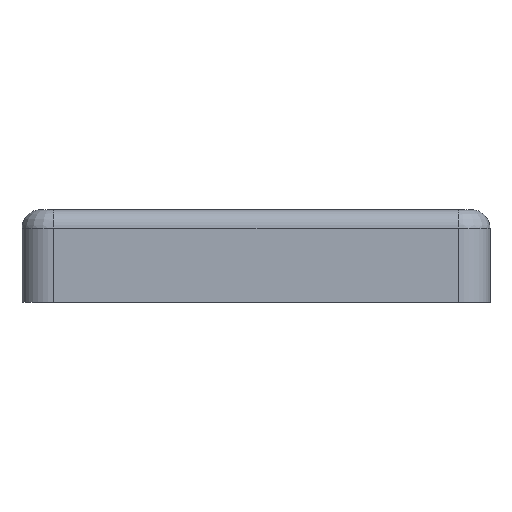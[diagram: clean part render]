
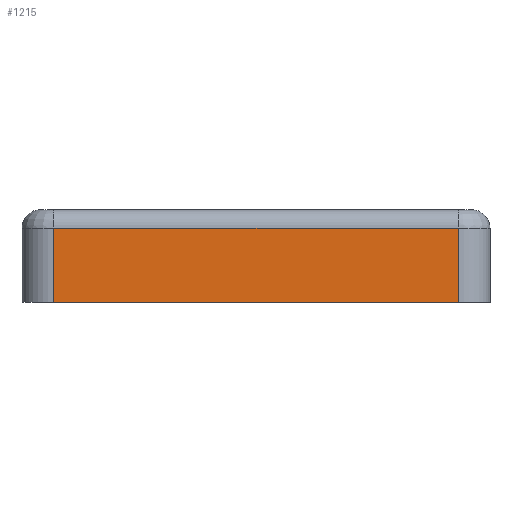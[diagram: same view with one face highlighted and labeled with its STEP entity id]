
A CAD part, left-side view. The second image highlights one B-rep face of the part: STEP entity #1215.
In plain terms, the highlighted planar face has unit normal (-1, 0, 0).
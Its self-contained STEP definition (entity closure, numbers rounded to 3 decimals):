
#43 = PLANE('',#44);
#44 = AXIS2_PLACEMENT_3D('',#45,#46,#47);
#45 = CARTESIAN_POINT('',(-6.25,-33.35,0.1));
#46 = DIRECTION('',(0.,0.,1.));
#47 = DIRECTION('',(1.,0.,0.));
#70 = CYLINDRICAL_SURFACE('',#71,2.1);
#71 = AXIS2_PLACEMENT_3D('',#72,#73,#74);
#72 = CARTESIAN_POINT('',(0.45,-26.65,-8.02));
#73 = DIRECTION('',(0.,0.,1.));
#74 = DIRECTION('',(0.,-1.,0.));
#166 = EDGE_CURVE('',#167,#169,#171,.T.);
#167 = VERTEX_POINT('',#168);
#168 = CARTESIAN_POINT('',(-1.65,-0.05,0.1));
#169 = VERTEX_POINT('',#170);
#170 = CARTESIAN_POINT('',(-1.65,-26.65,0.1));
#171 = SURFACE_CURVE('',#172,(#176,#182),.PCURVE_S1.);
#172 = LINE('',#173,#174);
#173 = CARTESIAN_POINT('',(-1.65,-15.65,0.1));
#174 = VECTOR('',#175,1.);
#175 = DIRECTION('',(0.,-1.,0.));
#176 = PCURVE('',#43,#177);
#177 = DEFINITIONAL_REPRESENTATION('',(#178),#181);
#178 = B_SPLINE_CURVE_WITH_KNOTS('',1,(#179,#180),.UNSPECIFIED.,.F.,.F.,
  (2,2),(-15.6,11.),.PIECEWISE_BEZIER_KNOTS.);
#179 = CARTESIAN_POINT('',(4.6,33.3));
#180 = CARTESIAN_POINT('',(4.6,6.7));
#181 = ( GEOMETRIC_REPRESENTATION_CONTEXT(2) 
PARAMETRIC_REPRESENTATION_CONTEXT() REPRESENTATION_CONTEXT('2D SPACE',''
  ) );
#182 = PCURVE('',#183,#188);
#183 = PLANE('',#184);
#184 = AXIS2_PLACEMENT_3D('',#185,#186,#187);
#185 = CARTESIAN_POINT('',(-1.65,2.05,-8.02));
#186 = DIRECTION('',(1.,0.,-0.));
#187 = DIRECTION('',(0.,-1.,0.));
#188 = DEFINITIONAL_REPRESENTATION('',(#189),#192);
#189 = B_SPLINE_CURVE_WITH_KNOTS('',1,(#190,#191),.UNSPECIFIED.,.F.,.F.,
  (2,2),(-15.6,11.),.PIECEWISE_BEZIER_KNOTS.);
#190 = CARTESIAN_POINT('',(2.1,-8.12));
#191 = CARTESIAN_POINT('',(28.7,-8.12));
#192 = ( GEOMETRIC_REPRESENTATION_CONTEXT(2) 
PARAMETRIC_REPRESENTATION_CONTEXT() REPRESENTATION_CONTEXT('2D SPACE',''
  ) );
#661 = CYLINDRICAL_SURFACE('',#662,2.1);
#662 = AXIS2_PLACEMENT_3D('',#663,#664,#665);
#663 = CARTESIAN_POINT('',(0.45,-0.05,-8.02));
#664 = DIRECTION('',(0.,0.,1.));
#665 = DIRECTION('',(-0.,1.,0.));
#1171 = EDGE_CURVE('',#169,#1172,#1174,.T.);
#1172 = VERTEX_POINT('',#1173);
#1173 = CARTESIAN_POINT('',(-1.65,-26.65,4.98));
#1174 = SURFACE_CURVE('',#1175,(#1179,#1186),.PCURVE_S1.);
#1175 = LINE('',#1176,#1177);
#1176 = CARTESIAN_POINT('',(-1.65,-26.65,-8.02));
#1177 = VECTOR('',#1178,1.);
#1178 = DIRECTION('',(0.,0.,1.));
#1179 = PCURVE('',#70,#1180);
#1180 = DEFINITIONAL_REPRESENTATION('',(#1181),#1185);
#1181 = LINE('',#1182,#1183);
#1182 = CARTESIAN_POINT('',(-1.571,0.));
#1183 = VECTOR('',#1184,1.);
#1184 = DIRECTION('',(-0.,1.));
#1185 = ( GEOMETRIC_REPRESENTATION_CONTEXT(2) 
PARAMETRIC_REPRESENTATION_CONTEXT() REPRESENTATION_CONTEXT('2D SPACE',''
  ) );
#1186 = PCURVE('',#183,#1187);
#1187 = DEFINITIONAL_REPRESENTATION('',(#1188),#1192);
#1188 = LINE('',#1189,#1190);
#1189 = CARTESIAN_POINT('',(28.7,0.));
#1190 = VECTOR('',#1191,1.);
#1191 = DIRECTION('',(0.,-1.));
#1192 = ( GEOMETRIC_REPRESENTATION_CONTEXT(2) 
PARAMETRIC_REPRESENTATION_CONTEXT() REPRESENTATION_CONTEXT('2D SPACE',''
  ) );
#1215 = ADVANCED_FACE('',(#1216),#183,.F.);
#1216 = FACE_BOUND('',#1217,.F.);
#1217 = EDGE_LOOP('',(#1218,#1219,#1242,#1268));
#1218 = ORIENTED_EDGE('',*,*,#166,.F.);
#1219 = ORIENTED_EDGE('',*,*,#1220,.T.);
#1220 = EDGE_CURVE('',#167,#1221,#1223,.T.);
#1221 = VERTEX_POINT('',#1222);
#1222 = CARTESIAN_POINT('',(-1.65,-0.05,4.98));
#1223 = SURFACE_CURVE('',#1224,(#1228,#1235),.PCURVE_S1.);
#1224 = LINE('',#1225,#1226);
#1225 = CARTESIAN_POINT('',(-1.65,-0.05,-8.02));
#1226 = VECTOR('',#1227,1.);
#1227 = DIRECTION('',(0.,0.,1.));
#1228 = PCURVE('',#183,#1229);
#1229 = DEFINITIONAL_REPRESENTATION('',(#1230),#1234);
#1230 = LINE('',#1231,#1232);
#1231 = CARTESIAN_POINT('',(2.1,0.));
#1232 = VECTOR('',#1233,1.);
#1233 = DIRECTION('',(0.,-1.));
#1234 = ( GEOMETRIC_REPRESENTATION_CONTEXT(2) 
PARAMETRIC_REPRESENTATION_CONTEXT() REPRESENTATION_CONTEXT('2D SPACE',''
  ) );
#1235 = PCURVE('',#661,#1236);
#1236 = DEFINITIONAL_REPRESENTATION('',(#1237),#1241);
#1237 = LINE('',#1238,#1239);
#1238 = CARTESIAN_POINT('',(1.571,0.));
#1239 = VECTOR('',#1240,1.);
#1240 = DIRECTION('',(0.,1.));
#1241 = ( GEOMETRIC_REPRESENTATION_CONTEXT(2) 
PARAMETRIC_REPRESENTATION_CONTEXT() REPRESENTATION_CONTEXT('2D SPACE',''
  ) );
#1242 = ORIENTED_EDGE('',*,*,#1243,.T.);
#1243 = EDGE_CURVE('',#1221,#1172,#1244,.T.);
#1244 = SURFACE_CURVE('',#1245,(#1249,#1256),.PCURVE_S1.);
#1245 = LINE('',#1246,#1247);
#1246 = CARTESIAN_POINT('',(-1.65,-0.05,4.98));
#1247 = VECTOR('',#1248,1.);
#1248 = DIRECTION('',(0.,-1.,0.));
#1249 = PCURVE('',#183,#1250);
#1250 = DEFINITIONAL_REPRESENTATION('',(#1251),#1255);
#1251 = LINE('',#1252,#1253);
#1252 = CARTESIAN_POINT('',(2.1,-13.));
#1253 = VECTOR('',#1254,1.);
#1254 = DIRECTION('',(1.,0.));
#1255 = ( GEOMETRIC_REPRESENTATION_CONTEXT(2) 
PARAMETRIC_REPRESENTATION_CONTEXT() REPRESENTATION_CONTEXT('2D SPACE',''
  ) );
#1256 = PCURVE('',#1257,#1262);
#1257 = CYLINDRICAL_SURFACE('',#1258,1.2);
#1258 = AXIS2_PLACEMENT_3D('',#1259,#1260,#1261);
#1259 = CARTESIAN_POINT('',(-0.45,-0.05,4.98));
#1260 = DIRECTION('',(0.,-1.,0.));
#1261 = DIRECTION('',(0.,0.,1.));
#1262 = DEFINITIONAL_REPRESENTATION('',(#1263),#1267);
#1263 = LINE('',#1264,#1265);
#1264 = CARTESIAN_POINT('',(1.571,0.));
#1265 = VECTOR('',#1266,1.);
#1266 = DIRECTION('',(0.,1.));
#1267 = ( GEOMETRIC_REPRESENTATION_CONTEXT(2) 
PARAMETRIC_REPRESENTATION_CONTEXT() REPRESENTATION_CONTEXT('2D SPACE',''
  ) );
#1268 = ORIENTED_EDGE('',*,*,#1171,.F.);
